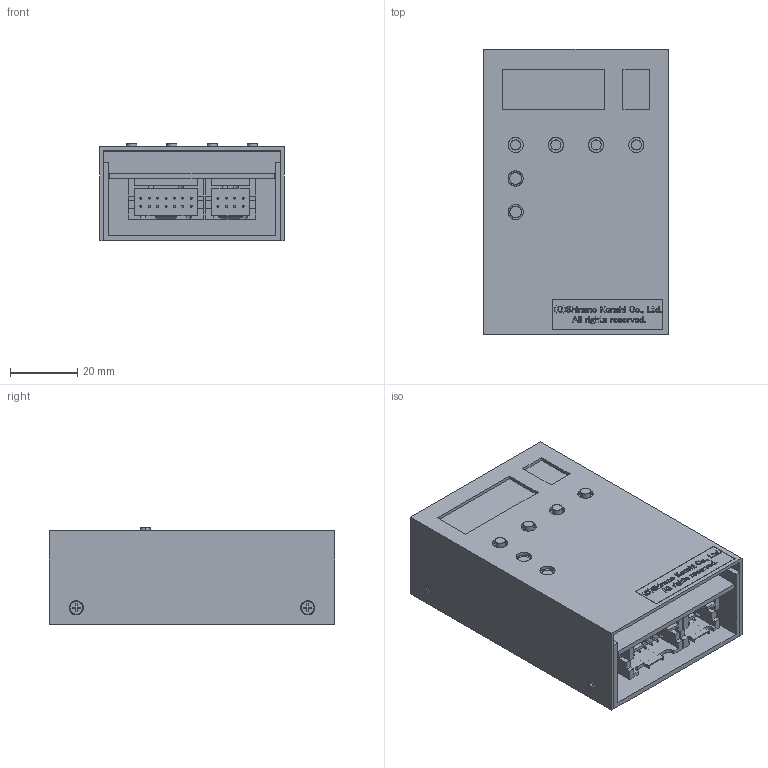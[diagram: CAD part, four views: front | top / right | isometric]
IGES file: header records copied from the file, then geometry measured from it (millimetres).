
Start section: SolidWorks IGES file using analytic representation for surfaces
Global section: file name: C:\Documents and Settings\3dcad\デスクトップ\PDSA-US.IGS; native system: SolidWorks 2006 by SolidWorks Corporation; preprocessor: SolidWorks 2006 by SolidWorks Corporation; author: 3dcad; date: 090428.132145; units: millimetre
Bounding box: 55 x 85 x 29 mm (x, y, z)
Surface area: 42339.8 mm2 (no closed solid volume)
Topology: 0 solids, 0 shells, 1388 faces, 9800 edges, 9800 vertices
Faces by surface type: bspline 1288, revolution 100
